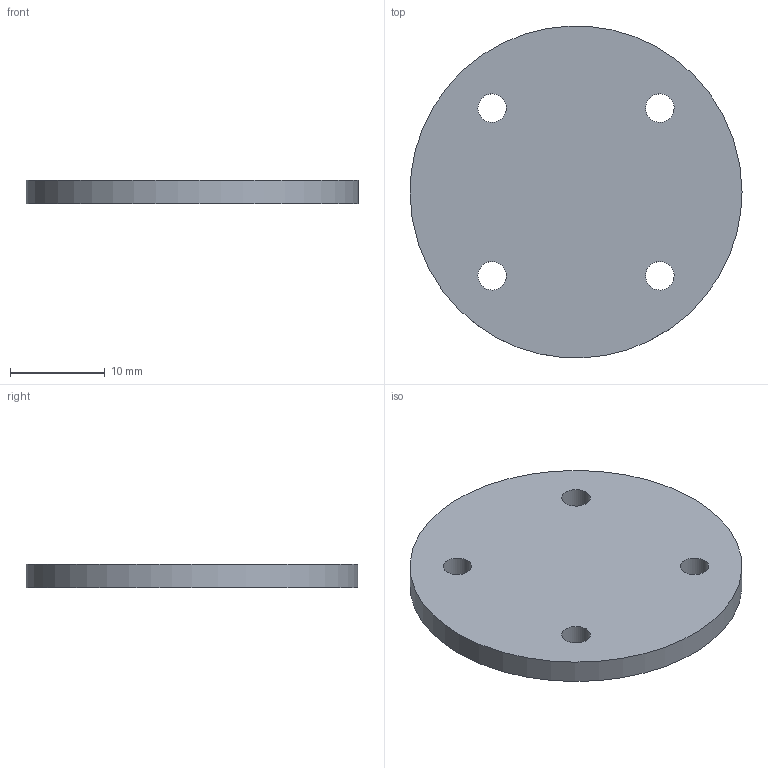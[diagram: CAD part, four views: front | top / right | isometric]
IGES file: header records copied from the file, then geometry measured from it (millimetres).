
Global section: file name: Arandela; native system: Autodesk Inventor 2022; preprocessor: unknown; author: pined; date: 20220607.174702; units: millimetre
Bounding box: 35 x 34.97 x 2.5 mm (x, y, z)
Volume: 2335.1 mm3; surface area: 2237.1 mm2
Topology: 1 solids, 1 shells, 7 faces, 17 edges, 12 vertices
Faces by surface type: bspline 7
